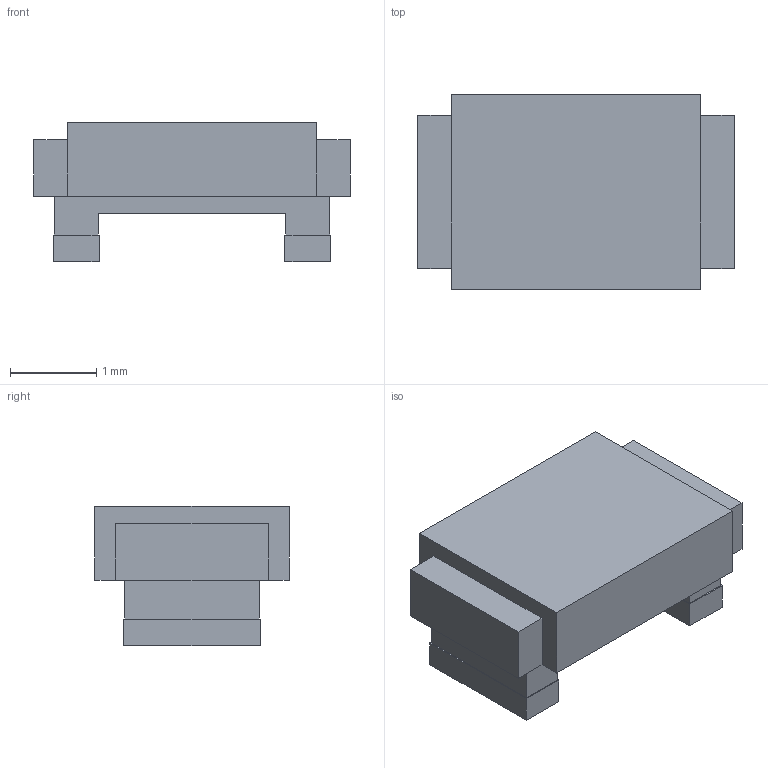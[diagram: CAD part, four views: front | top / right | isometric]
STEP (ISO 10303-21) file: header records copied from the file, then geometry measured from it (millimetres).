
FILE_DESCRIPTION(('STEP AP203'), '1');
FILE_NAME('KIK 3216 (1206) Çë', '', ('UNSPECIFIED'), ('UNSPECIFIED'), 'ASCON STEP Converter 1.6', 'ASCON Math Kernel', '');
FILE_SCHEMA(('CONFIG_CONTROL_DESIGN'));
Length unit declared in the file: millimetre
Assembly tree (1 placements, depth 2):
  (unnamed)
    (unnamed)
Bounding box: 3.68 x 2.26 x 1.62 mm (x, y, z)
Volume: 8.5 mm3; surface area: 32.8 mm2
Topology: 1 solids, 2 shells, 52 faces, 135 edges, 90 vertices
Faces by surface type: plane 48, cylinder 4
Entity records: 2079 total; most frequent: CARTESIAN_POINT 279, ORIENTED_EDGE 270, DIRECTION 251, EDGE_CURVE 135, LINE 127, VECTOR 127, VERTEX_POINT 90, AXIS2_PLACEMENT_3D 62
